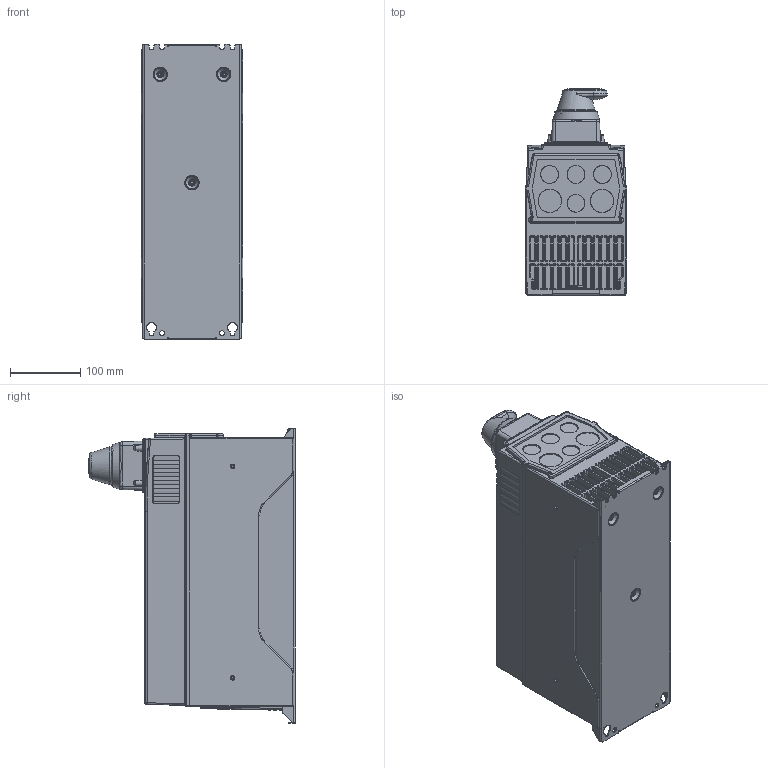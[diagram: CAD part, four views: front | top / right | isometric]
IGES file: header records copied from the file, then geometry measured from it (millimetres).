
Global section: file name: C:\temp\3D mechanics (extra.vacon)\Agileen\MR5\MR5_Simplified_Model_Main_Switch_igs.igs; native system: NX V6.0; preprocessor: SIEMENS UGS NX 6.0; date: 20121211.140625; units: millimetre
Bounding box: 144 x 293.35 x 419 mm (x, y, z)
Surface area: 608334 mm2 (no closed solid volume)
Topology: 0 solids, 0 shells, 1962 faces, 12404 edges, 12352 vertices
Faces by surface type: bspline 1962
